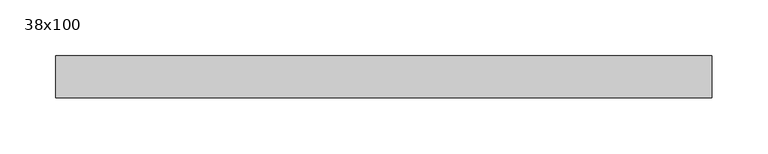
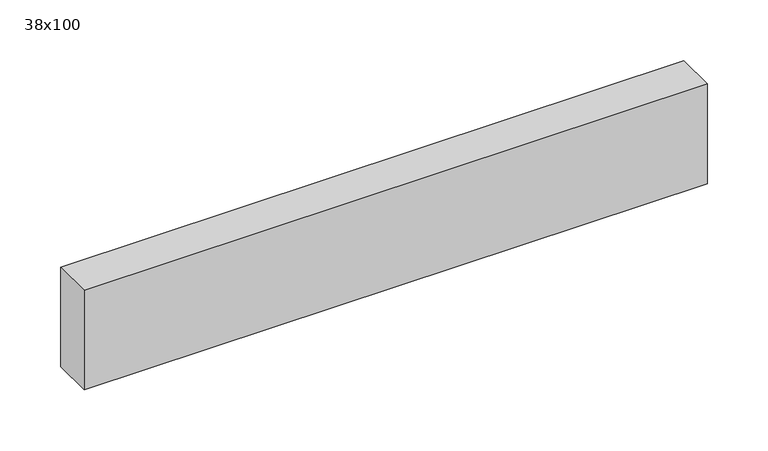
"""IFC4 building model written with IfcOpenShell, lengths in millimetres: beam geometry, Poutre - Bois de construction de dimensions courantes : 38x100."""

import ifcopenshell
import ifcopenshell.guid

model = None  # the IFC model being written
_history = None  # IfcOwnerHistory: only IFC2X3 demands one
_inside = {}  # id of a spatial element -> (the spatial element, [elements in it])
_under = {}  # id of a project, library or spatial element -> (it, [spatial elements below it])
_declared = {}  # id of a project -> (the project, [libraries it declares])
_typed = {}  # id of a type object -> (the type object, [elements of that type])
_made_of = {}  # id of a material, layer set ... -> (it, [elements and type objects made of it])


def new_model(schema):
    """Start an empty IFC model of exactly this schema.

    Asked for "IFC4X3", IfcOpenShell would pick the latest addendum, in which some entities
    have other attributes; the version numbers below select the first issue.
    IFC2X3 requires an IfcOwnerHistory on every rooted entity: one is made here for all.
    """
    global model, _history
    if schema == "IFC4X3":
        model = ifcopenshell.file(schema_version=(4, 3, 0, 0))
    else:
        model = ifcopenshell.file(schema=schema)
    _inside.clear()
    _under.clear()
    _declared.clear()
    _typed.clear()
    _made_of.clear()
    _history = None
    if model.schema == "IFC2X3":
        org = make("IfcOrganization", Name="unknown")
        user = make(
            "IfcPersonAndOrganization",
            ThePerson=make("IfcPerson", FamilyName="unknown"),
            TheOrganization=org,
        )
        app = make(
            "IfcApplication",
            ApplicationDeveloper=org,
            Version="unknown",
            ApplicationFullName="unknown",
            ApplicationIdentifier="unknown",
        )
        _history = make(
            "IfcOwnerHistory",
            OwningUser=user,
            OwningApplication=app,
            ChangeAction="ADDED",
            CreationDate=0,
        )
    return model


def make(cls, **values):
    """One entity of the class cls with the attributes given. An attribute that is None is left unset."""
    return model.create_entity(
        cls, **{name: value for name, value in values.items() if value is not None}
    )


def rooted(cls, **values):
    """An entity with a GlobalId (a new one), such as an element, a storey or a relation."""
    return make(cls, GlobalId=ifcopenshell.guid.new(), OwnerHistory=_history, **values)


def si_unit(unit_type, name, prefix=None):
    """IfcSIUnit, for example si_unit("LENGTHUNIT", "METRE", prefix="MILLI")."""
    return make("IfcSIUnit", UnitType=unit_type, Prefix=prefix, Name=name)


def assignment(units):
    """IfcUnitAssignment: the units of a project."""
    return None if units is None else make("IfcUnitAssignment", Units=units)


def point(xyz):
    """IfcCartesianPoint."""
    return None if xyz is None else make("IfcCartesianPoint", Coordinates=xyz)


def direction(xyz):
    """IfcDirection."""
    return None if xyz is None else make("IfcDirection", DirectionRatios=xyz)


def frame(location, z_axis=None, x_axis=None):
    """IfcAxis2Placement3D, a coordinate frame: its origin and axes. An axis left out is left unset."""
    return make(
        "IfcAxis2Placement3D",
        Location=point(location),
        Axis=direction(z_axis),
        RefDirection=direction(x_axis),
    )


def origin():
    """The frame at (0, 0, 0) with its axes left unset."""
    return frame((0.0, 0.0, 0.0))


def place(relative_to, where):
    """IfcLocalPlacement: puts the frame where relative to a parent placement (None: the world)."""
    return make(
        "IfcLocalPlacement", PlacementRelTo=relative_to, RelativePlacement=where
    )


def context(
    kind, dimensions, precision=None, world=None, true_north=None, identifier=None
):
    """IfcGeometricRepresentationContext, for example the 3D "Model" context."""
    return make(
        "IfcGeometricRepresentationContext",
        ContextIdentifier=identifier,
        ContextType=kind,
        CoordinateSpaceDimension=dimensions,
        Precision=precision,
        WorldCoordinateSystem=world,
        TrueNorth=true_north,
    )


def project(units=None, contexts=None):
    """IfcProject with its units and contexts."""
    return rooted(
        "IfcProject",
        Name="project",
        RepresentationContexts=contexts,
        UnitsInContext=assignment(units),
    )


def spatial(cls, under=None, at=None, **own):
    """A site, building, storey or space (cls), placed at a placement, below another one or the project."""
    s = rooted(cls, ObjectPlacement=at, **own)
    if under is not None:
        _under.setdefault(under.id(), (under, []))[1].append(s)
    return s


def polyline(points):
    """IfcPolyline through the points."""
    return make("IfcPolyline", Points=[point(p) for p in points])


def outline(outer, holes=None, kind="AREA"):
    """IfcArbitraryClosedProfileDef: a profile drawn as a closed curve; with holes, ...WithVoids."""
    if holes is None:
        return make("IfcArbitraryClosedProfileDef", ProfileType=kind, OuterCurve=outer)
    return make(
        "IfcArbitraryProfileDefWithVoids",
        ProfileType=kind,
        OuterCurve=outer,
        InnerCurves=holes,
    )


def extrude(swept, where, along, depth):
    """IfcExtrudedAreaSolid: the profile swept, set in the frame where, extruded along a direction by depth."""
    return make(
        "IfcExtrudedAreaSolid",
        SweptArea=swept,
        Position=where,
        ExtrudedDirection=direction(along),
        Depth=depth,
    )


def shape(context_of_items, identifier, shape_type, items):
    """IfcShapeRepresentation: the items that make up one representation, for example the "Body"."""
    return make(
        "IfcShapeRepresentation",
        ContextOfItems=context_of_items,
        RepresentationIdentifier=identifier,
        RepresentationType=shape_type,
        Items=items,
    )


def source(mapping_origin, context_of_items, identifier, shape_type, items):
    """IfcRepresentationMap: a shape defined once, which mapped items show again and again."""
    return make(
        "IfcRepresentationMap",
        MappingOrigin=mapping_origin,
        MappedRepresentation=shape(context_of_items, identifier, shape_type, items),
    )


def transform(
    local_origin,
    x_axis=None,
    y_axis=None,
    z_axis=None,
    scale=None,
    scale2=None,
    scale3=None,
    uniform=True,
):
    """IfcCartesianTransformationOperator3D, or its non-uniform kind. x_axis, y_axis, z_axis: its Axis1, 2, 3."""
    if uniform:
        return make(
            "IfcCartesianTransformationOperator3D",
            Axis1=direction(x_axis),
            Axis2=direction(y_axis),
            LocalOrigin=point(local_origin),
            Scale=scale,
            Axis3=direction(z_axis),
        )
    return make(
        "IfcCartesianTransformationOperator3DnonUniform",
        Axis1=direction(x_axis),
        Axis2=direction(y_axis),
        LocalOrigin=point(local_origin),
        Scale=scale,
        Axis3=direction(z_axis),
        Scale2=scale2,
        Scale3=scale3,
    )


def mapped(mapping_source, mapping_target):
    """IfcMappedItem: shows the shape of a source again, moved by a transform."""
    return make(
        "IfcMappedItem", MappingSource=mapping_source, MappingTarget=mapping_target
    )


def made_of(thing, what):
    """Note that an element or type object is made of a material, layer set ...; save() writes the relation."""
    if what is not None:
        _made_of.setdefault(what.id(), (what, []))[1].append(thing)
    return thing


def element(
    cls,
    number,
    at=None,
    inside=None,
    cuts=None,
    type_object=None,
    material=None,
    context=None,
    identifier="Body",
    shape_type=None,
    held_by="IfcProductDefinitionShape",
    body=None,
    shapes=None,
    **own,
):
    """One element of the class cls, such as IfcWall. Its Tag is "e" and its number.

    at: its placement. inside: the storey or other place that contains it. cuts: it is an
    opening in that element (IfcRelVoidsElement). A single representation is given by context,
    identifier, shape_type and body (its items); several are given by shapes. held_by: the class
    of the entity that holds the representations. save() writes the other relations.
    """
    e = rooted(cls, Tag="e%d" % number, ObjectPlacement=at, **own)
    if body is not None:
        shapes = [shape(context, identifier, shape_type, body)]
    if shapes is not None:
        e.Representation = make(held_by, Representations=shapes)
    if inside is not None:
        _inside.setdefault(inside.id(), (inside, []))[1].append(e)
    if cuts is not None:
        rooted(
            "IfcRelVoidsElement", RelatingBuildingElement=cuts, RelatedOpeningElement=e
        )
    if type_object is not None:
        _typed.setdefault(type_object.id(), (type_object, []))[1].append(e)
    return made_of(e, material)


def aggregate(whole, parts):
    """IfcRelAggregates: a whole, such as a stair, and the parts it consists of."""
    return rooted("IfcRelAggregates", RelatingObject=whole, RelatedObjects=parts)


def save(model, path):
    """Write the relations noted so far, then the file.

    IfcRelAggregates (storeys below a building ...), IfcRelContainedInSpatialStructure (elements
    in a storey), IfcRelDefinesByType, IfcRelAssociatesMaterial and IfcRelDeclares: one each for
    every whole, place, type object, material and project.
    """
    for whole, parts in _under.values():
        aggregate(whole, parts)
    for where, things in _inside.values():
        rooted(
            "IfcRelContainedInSpatialStructure",
            RelatedElements=things,
            RelatingStructure=where,
        )
    for kind, things in _typed.values():
        rooted("IfcRelDefinesByType", RelatedObjects=things, RelatingType=kind)
    for what, things in _made_of.values():
        rooted("IfcRelAssociatesMaterial", RelatedObjects=things, RelatingMaterial=what)
    for by, libraries in _declared.values():
        rooted("IfcRelDeclares", RelatingContext=by, RelatedDefinitions=libraries)
    model.write(path)


def beam_38x100_26addfd1(model_context):
    return source(origin(), model_context, "Body", "SweptSolid", [
        extrude(outline(polyline([(291.0, 19.05), (291.0, -19.05), (-300.0, -19.05), (-300.0, 19.05), (291.0, 19.05)])), frame((0.0, 0.0, -50.0), z_axis=(0.0, 0.0, 1.0), x_axis=(1.0, 0.0, 0.0)), (0.0, 0.0, 1.0), 100.0),
    ])


if __name__ == "__main__":
    model = new_model("IFC4")
    model_context = context("Model", 3, world=origin())
    ifc_project = project(units=[si_unit("LENGTHUNIT", "METRE", prefix="MILLI")], contexts=[model_context])
    site = spatial("IfcSite", under=ifc_project)
    building = spatial("IfcBuilding", under=site)
    placement = place(None, origin())
    beam_38x100_shape = beam_38x100_26addfd1(model_context)
    element("IfcBeam", 1, ObjectType="Poutre - Bois de construction de dimensions courantes : 38x100", at=placement, inside=building, context=model_context, shape_type="MappedRepresentation", body=[
        mapped(beam_38x100_shape, transform((0.0, 0.0, 0.0), x_axis=(1.0, 0.0, 0.0), y_axis=(0.0, 1.0, 0.0), z_axis=(0.0, 0.0, 1.0))),
    ])
    save(model, "model.ifc")
